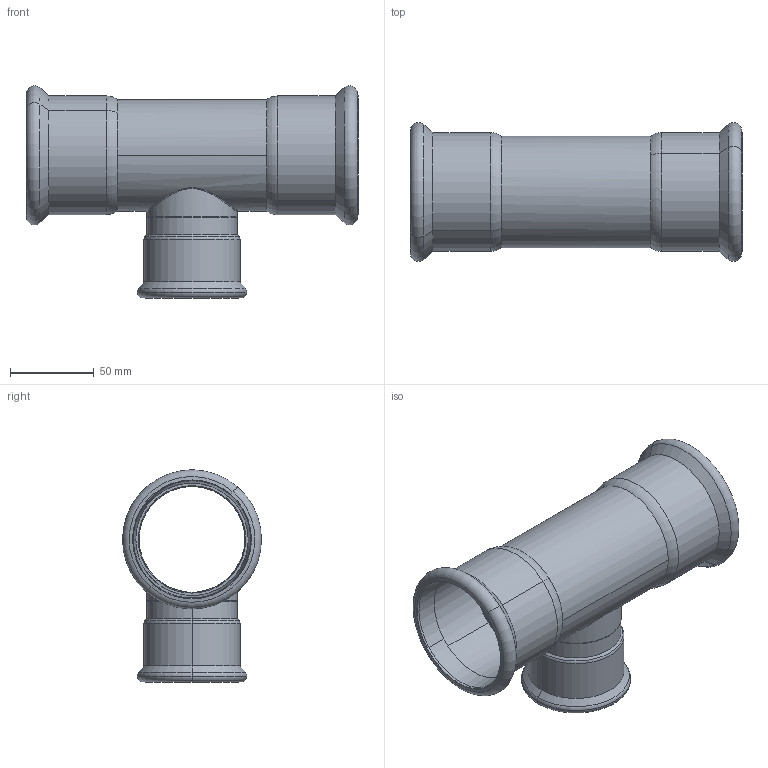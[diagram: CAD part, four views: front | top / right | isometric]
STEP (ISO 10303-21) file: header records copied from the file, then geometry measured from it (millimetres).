
FILE_DESCRIPTION(('CoCreate Modeling STEP Export'),'2;1');
FILE_NAME('C1415 67x54x67.stp','2014-10-23T16:00:41',(''),(''),'CoCreate Modeling STEP processor for AP214 (Solid Model)','CoCreate Modeling 17.00A 17-Jun-2010 (C) Parametric Technology GmbH','');
FILE_SCHEMA(('AUTOMOTIVE_DESIGN { 1 0 10303 214 1 1 1 1 }'));
Length unit declared in the file: millimetre
Products named in the file (2): TSTUK_67x54x67mm
Assembly tree (1 placements, depth 2):
  TSTUK_67x54x67mm
    TSTUK_67x54x67mm
Bounding box: 198.08 x 82.91 x 126.61 mm (x, y, z)
Volume: 116208.3 mm3; surface area: 105859 mm2
Topology: 1 solids, 1 shells, 107 faces, 249 edges, 149 vertices
Faces by surface type: cylinder 36, cone 36, torus 24, plane 7, bspline 4
Entity records: 7728 total; most frequent: CARTESIAN_POINT 5698, ORIENTED_EDGE 498, DIRECTION 338, EDGE_CURVE 249, VERTEX_POINT 149, AXIS2_PLACEMENT_3D 133, EDGE_LOOP 116, FACE_OUTER_BOUND 107
